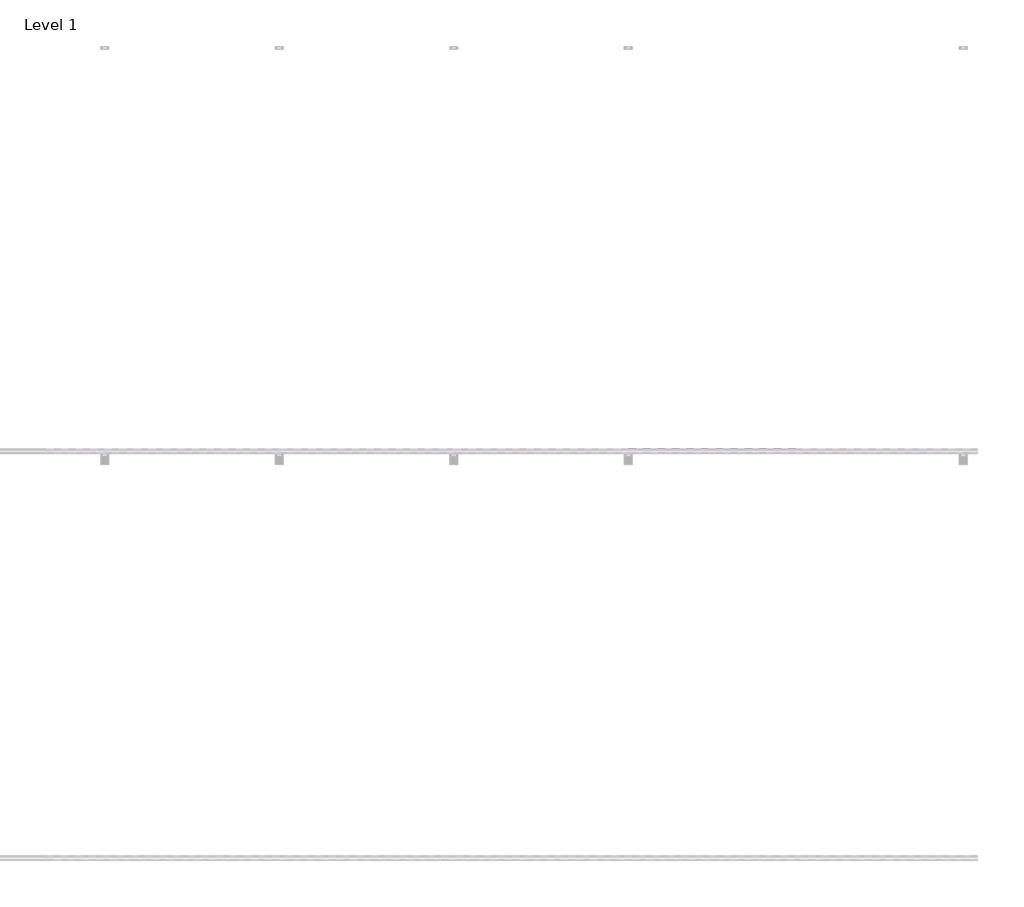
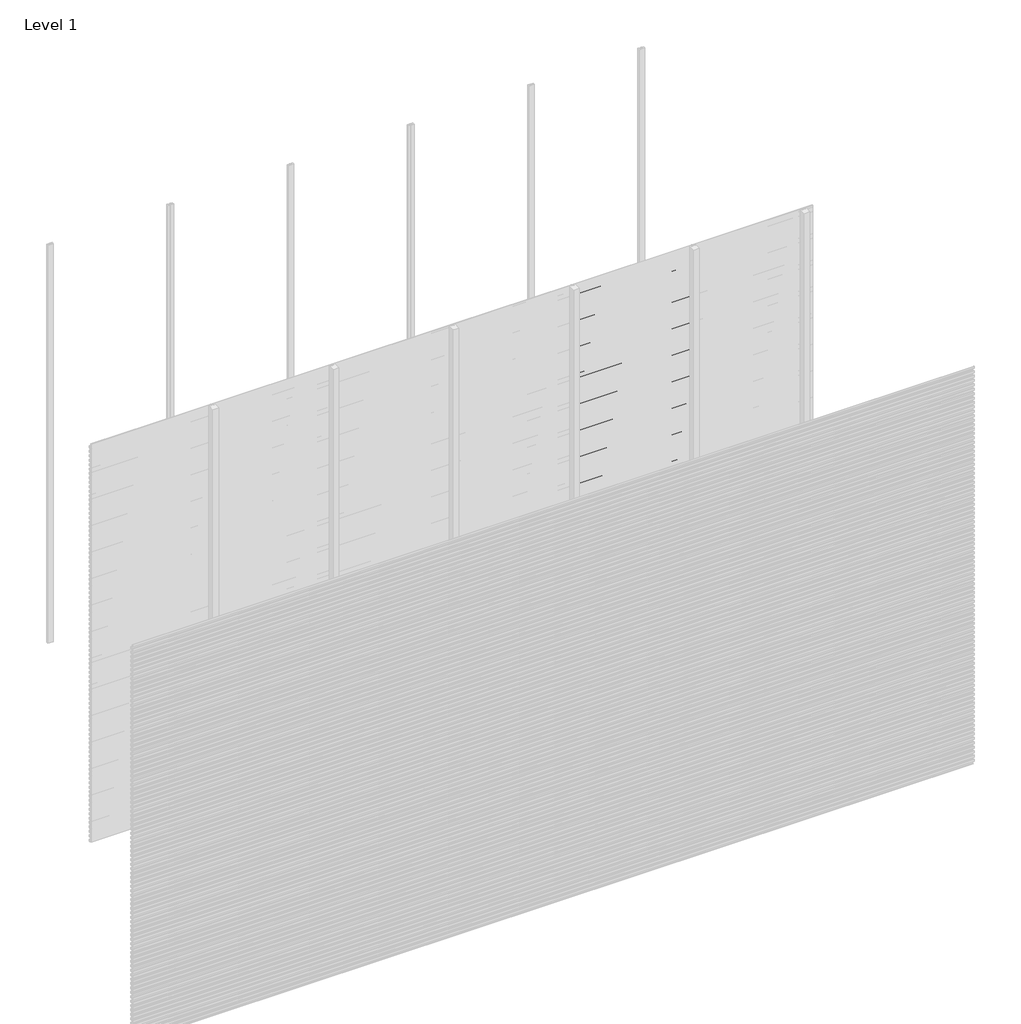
# One storey, part 48 of 96: 77 proxies.
"""IFC4 building model written with IfcOpenShell, lengths in millimetres."""

from ifc_helpers import new_model, si_unit, frame, origin, place, context, project, spatial, polyline, outline, extrude, element, save

model = new_model("IFC4")

# Units and contexts
model_context = context("Model", 3, world=origin())
ifc_project = project(units=[si_unit("LENGTHUNIT", "METRE", prefix="MILLI")], contexts=[model_context])

# Site, building, storey
site = spatial("IfcSite", under=ifc_project)
building = spatial("IfcBuilding", under=site)
storey = spatial("IfcBuildingStorey", under=building, Name="Level 1", Elevation=0.0)

# Proxies
placement = place(None, origin())
element("IfcBuildingElementProxy", 1, Name="Wall Sweeps", at=placement, inside=storey, context=model_context, shape_type="SweptSolid", body=[
    extrude(outline(polyline([(-29977.6, 873.8655033), (-29977.6, 859.5779188), (-29982.4114965, 856.8), (-29982.4114965, 858.0701706), (-29978.85, 860.1264016), (-29978.85, 873.1437382), (-29998.0, 884.2000799), (-29998.0, 899.1), (-29996.75, 899.1), (-29996.75, 884.9217609), (-29977.6, 873.8655033)])), frame((3428.5714286, 0.0, 0.0), z_axis=(1.0, 0.0, 0.0), x_axis=(0.0, 1.0, 0.0)), (0.0, 0.0, 1.0), 857.1428571),
])
element("IfcBuildingElementProxy", 2, Name="Wall Sweeps", at=placement, inside=storey, context=model_context, shape_type="SweptSolid", body=[
    extrude(outline(polyline([(-29977.6, 840.5655033), (-29977.6, 826.2779188), (-29982.4114965, 823.5), (-29982.4114965, 824.7701706), (-29978.85, 826.8264016), (-29978.85, 839.8437382), (-29998.0, 850.9000799), (-29998.0, 865.8), (-29996.75, 865.8), (-29996.75, 851.6217609), (-29977.6, 840.5655033)])), frame((3428.5714286, 0.0, 0.0), z_axis=(1.0, 0.0, 0.0), x_axis=(0.0, 1.0, 0.0)), (0.0, 0.0, 1.0), 857.1428571),
])
element("IfcBuildingElementProxy", 3, Name="Wall Sweeps", at=placement, inside=storey, context=model_context, shape_type="SweptSolid", body=[
    extrude(outline(polyline([(-29977.6, 807.2655033), (-29977.6, 792.9779188), (-29982.4114965, 790.2), (-29982.4114965, 791.4701706), (-29978.85, 793.5264016), (-29978.85, 806.5437382), (-29998.0, 817.6000799), (-29998.0, 832.5), (-29996.75, 832.5), (-29996.75, 818.3217609), (-29977.6, 807.2655033)])), frame((3428.5714286, 0.0, 0.0), z_axis=(1.0, 0.0, 0.0), x_axis=(0.0, 1.0, 0.0)), (0.0, 0.0, 1.0), 857.1428571),
])
element("IfcBuildingElementProxy", 4, Name="Wall Sweeps", at=placement, inside=storey, context=model_context, shape_type="SweptSolid", body=[
    extrude(outline(polyline([(-29977.6, 773.9655033), (-29977.6, 759.6779188), (-29982.4114965, 756.9), (-29982.4114965, 758.1701706), (-29978.85, 760.2264016), (-29978.85, 773.2437382), (-29998.0, 784.3000799), (-29998.0, 799.2), (-29996.75, 799.2), (-29996.75, 785.0217609), (-29977.6, 773.9655033)])), frame((3428.5714286, 0.0, 0.0), z_axis=(1.0, 0.0, 0.0), x_axis=(0.0, 1.0, 0.0)), (0.0, 0.0, 1.0), 857.1428571),
])
element("IfcBuildingElementProxy", 5, Name="Wall Sweeps", at=placement, inside=storey, context=model_context, shape_type="SweptSolid", body=[
    extrude(outline(polyline([(-29977.6, 740.6655033), (-29977.6, 726.3779188), (-29982.4114965, 723.6), (-29982.4114965, 724.8701706), (-29978.85, 726.9264016), (-29978.85, 739.9437382), (-29998.0, 751.0000799), (-29998.0, 765.9), (-29996.75, 765.9), (-29996.75, 751.7217609), (-29977.6, 740.6655033)])), frame((3428.5714286, 0.0, 0.0), z_axis=(1.0, 0.0, 0.0), x_axis=(0.0, 1.0, 0.0)), (0.0, 0.0, 1.0), 857.1428571),
])
element("IfcBuildingElementProxy", 6, Name="Wall Sweeps", at=placement, inside=storey, context=model_context, shape_type="SweptSolid", body=[
    extrude(outline(polyline([(-29977.6, 707.3655033), (-29977.6, 693.0779188), (-29982.4114965, 690.3), (-29982.4114965, 691.5701706), (-29978.85, 693.6264016), (-29978.85, 706.6437382), (-29998.0, 717.7000799), (-29998.0, 732.6), (-29996.75, 732.6), (-29996.75, 718.4217609), (-29977.6, 707.3655033)])), frame((3428.5714286, 0.0, 0.0), z_axis=(1.0, 0.0, 0.0), x_axis=(0.0, 1.0, 0.0)), (0.0, 0.0, 1.0), 857.1428571),
])
element("IfcBuildingElementProxy", 7, Name="Wall Sweeps", at=placement, inside=storey, context=model_context, shape_type="SweptSolid", body=[
    extrude(outline(polyline([(-29977.6, 674.0655033), (-29977.6, 659.7779188), (-29982.4114965, 657.0), (-29982.4114965, 658.2701706), (-29978.85, 660.3264016), (-29978.85, 673.3437382), (-29998.0, 684.4000799), (-29998.0, 699.3), (-29996.75, 699.3), (-29996.75, 685.1217609), (-29977.6, 674.0655033)])), frame((3428.5714286, 0.0, 0.0), z_axis=(1.0, 0.0, 0.0), x_axis=(0.0, 1.0, 0.0)), (0.0, 0.0, 1.0), 857.1428571),
])
element("IfcBuildingElementProxy", 8, Name="Wall Sweeps", at=placement, inside=storey, context=model_context, shape_type="SweptSolid", body=[
    extrude(outline(polyline([(-29977.6, 640.7655033), (-29977.6, 626.4779188), (-29982.4114965, 623.7), (-29982.4114965, 624.9701706), (-29978.85, 627.0264016), (-29978.85, 640.0437382), (-29998.0, 651.1000799), (-29998.0, 666.0), (-29996.75, 666.0), (-29996.75, 651.8217609), (-29977.6, 640.7655033)])), frame((3428.5714286, 0.0, 0.0), z_axis=(1.0, 0.0, 0.0), x_axis=(0.0, 1.0, 0.0)), (0.0, 0.0, 1.0), 857.1428571),
])
element("IfcBuildingElementProxy", 9, Name="Wall Sweeps", at=placement, inside=storey, context=model_context, shape_type="SweptSolid", body=[
    extrude(outline(polyline([(-29977.6, 607.4655033), (-29977.6, 593.1779188), (-29982.4114965, 590.4), (-29982.4114965, 591.6701706), (-29978.85, 593.7264016), (-29978.85, 606.7437382), (-29998.0, 617.8000799), (-29998.0, 632.7), (-29996.75, 632.7), (-29996.75, 618.5217609), (-29977.6, 607.4655033)])), frame((3428.5714286, 0.0, 0.0), z_axis=(1.0, 0.0, 0.0), x_axis=(0.0, 1.0, 0.0)), (0.0, 0.0, 1.0), 857.1428571),
])
element("IfcBuildingElementProxy", 10, Name="Wall Sweeps", at=placement, inside=storey, context=model_context, shape_type="SweptSolid", body=[
    extrude(outline(polyline([(-29977.6, 574.1655033), (-29977.6, 559.8779188), (-29982.4114965, 557.1), (-29982.4114965, 558.3701706), (-29978.85, 560.4264016), (-29978.85, 573.4437382), (-29998.0, 584.5000799), (-29998.0, 599.4), (-29996.75, 599.4), (-29996.75, 585.2217609), (-29977.6, 574.1655033)])), frame((3428.5714286, 0.0, 0.0), z_axis=(1.0, 0.0, 0.0), x_axis=(0.0, 1.0, 0.0)), (0.0, 0.0, 1.0), 857.1428571),
])
element("IfcBuildingElementProxy", 11, Name="Wall Sweeps", at=placement, inside=storey, context=model_context, shape_type="SweptSolid", body=[
    extrude(outline(polyline([(-29977.6, 540.8655033), (-29977.6, 526.5779188), (-29982.4114965, 523.8), (-29982.4114965, 525.0701706), (-29978.85, 527.1264016), (-29978.85, 540.1437382), (-29998.0, 551.2000799), (-29998.0, 566.1), (-29996.75, 566.1), (-29996.75, 551.9217609), (-29977.6, 540.8655033)])), frame((3428.5714286, 0.0, 0.0), z_axis=(1.0, 0.0, 0.0), x_axis=(0.0, 1.0, 0.0)), (0.0, 0.0, 1.0), 857.1428571),
])
element("IfcBuildingElementProxy", 12, Name="Wall Sweeps", at=placement, inside=storey, context=model_context, shape_type="SweptSolid", body=[
    extrude(outline(polyline([(-29977.6, 507.5655033), (-29977.6, 493.2779188), (-29982.4114965, 490.5), (-29982.4114965, 491.7701706), (-29978.85, 493.8264016), (-29978.85, 506.8437382), (-29998.0, 517.9000799), (-29998.0, 532.8), (-29996.75, 532.8), (-29996.75, 518.6217609), (-29977.6, 507.5655033)])), frame((3428.5714286, 0.0, 0.0), z_axis=(1.0, 0.0, 0.0), x_axis=(0.0, 1.0, 0.0)), (0.0, 0.0, 1.0), 857.1428571),
])
element("IfcBuildingElementProxy", 13, Name="Wall Sweeps", at=placement, inside=storey, context=model_context, shape_type="SweptSolid", body=[
    extrude(outline(polyline([(-29977.6, 474.2655033), (-29977.6, 459.9779188), (-29982.4114965, 457.2), (-29982.4114965, 458.4701706), (-29978.85, 460.5264016), (-29978.85, 473.5437382), (-29998.0, 484.6000799), (-29998.0, 499.5), (-29996.75, 499.5), (-29996.75, 485.3217609), (-29977.6, 474.2655033)])), frame((3428.5714286, 0.0, 0.0), z_axis=(1.0, 0.0, 0.0), x_axis=(0.0, 1.0, 0.0)), (0.0, 0.0, 1.0), 857.1428571),
])
element("IfcBuildingElementProxy", 14, Name="Wall Sweeps", at=placement, inside=storey, context=model_context, shape_type="SweptSolid", body=[
    extrude(outline(polyline([(-29977.6, 440.9655033), (-29977.6, 426.6779188), (-29982.4114965, 423.9), (-29982.4114965, 425.1701706), (-29978.85, 427.2264016), (-29978.85, 440.2437382), (-29998.0, 451.3000799), (-29998.0, 466.2), (-29996.75, 466.2), (-29996.75, 452.0217609), (-29977.6, 440.9655033)])), frame((3428.5714286, 0.0, 0.0), z_axis=(1.0, 0.0, 0.0), x_axis=(0.0, 1.0, 0.0)), (0.0, 0.0, 1.0), 857.1428571),
])
element("IfcBuildingElementProxy", 15, Name="Wall Sweeps", at=placement, inside=storey, context=model_context, shape_type="SweptSolid", body=[
    extrude(outline(polyline([(-29977.6, 407.6655033), (-29977.6, 393.3779188), (-29982.4114965, 390.6), (-29982.4114965, 391.8701706), (-29978.85, 393.9264016), (-29978.85, 406.9437382), (-29998.0, 418.0000799), (-29998.0, 432.9), (-29996.75, 432.9), (-29996.75, 418.7217609), (-29977.6, 407.6655033)])), frame((3428.5714286, 0.0, 0.0), z_axis=(1.0, 0.0, 0.0), x_axis=(0.0, 1.0, 0.0)), (0.0, 0.0, 1.0), 857.1428571),
])
element("IfcBuildingElementProxy", 16, Name="Wall Sweeps", at=placement, inside=storey, context=model_context, shape_type="SweptSolid", body=[
    extrude(outline(polyline([(-29977.6, 374.3655033), (-29977.6, 360.0779188), (-29982.4114965, 357.3), (-29982.4114965, 358.5701706), (-29978.85, 360.6264016), (-29978.85, 373.6437382), (-29998.0, 384.7000799), (-29998.0, 399.6), (-29996.75, 399.6), (-29996.75, 385.4217609), (-29977.6, 374.3655033)])), frame((3428.5714286, 0.0, 0.0), z_axis=(1.0, 0.0, 0.0), x_axis=(0.0, 1.0, 0.0)), (0.0, 0.0, 1.0), 857.1428571),
])
element("IfcBuildingElementProxy", 17, Name="Wall Sweeps", at=placement, inside=storey, context=model_context, shape_type="SweptSolid", body=[
    extrude(outline(polyline([(-29977.6, 341.0655033), (-29977.6, 326.7779188), (-29982.4114965, 324.0), (-29982.4114965, 325.2701706), (-29978.85, 327.3264016), (-29978.85, 340.3437382), (-29998.0, 351.4000799), (-29998.0, 366.3), (-29996.75, 366.3), (-29996.75, 352.1217609), (-29977.6, 341.0655033)])), frame((3428.5714286, 0.0, 0.0), z_axis=(1.0, 0.0, 0.0), x_axis=(0.0, 1.0, 0.0)), (0.0, 0.0, 1.0), 857.1428571),
])
element("IfcBuildingElementProxy", 18, Name="Wall Sweeps", at=placement, inside=storey, context=model_context, shape_type="SweptSolid", body=[
    extrude(outline(polyline([(-29977.6, 307.7655033), (-29977.6, 293.4779188), (-29982.4114965, 290.7), (-29982.4114965, 291.9701706), (-29978.85, 294.0264016), (-29978.85, 307.0437382), (-29998.0, 318.1000799), (-29998.0, 333.0), (-29996.75, 333.0), (-29996.75, 318.8217609), (-29977.6, 307.7655033)])), frame((3428.5714286, 0.0, 0.0), z_axis=(1.0, 0.0, 0.0), x_axis=(0.0, 1.0, 0.0)), (0.0, 0.0, 1.0), 857.1428571),
])
element("IfcBuildingElementProxy", 19, Name="Wall Sweeps", at=placement, inside=storey, context=model_context, shape_type="SweptSolid", body=[
    extrude(outline(polyline([(-29977.6, 274.4655033), (-29977.6, 260.1779188), (-29982.4114965, 257.4), (-29982.4114965, 258.6701706), (-29978.85, 260.7264016), (-29978.85, 273.7437382), (-29998.0, 284.8000799), (-29998.0, 299.7), (-29996.75, 299.7), (-29996.75, 285.5217609), (-29977.6, 274.4655033)])), frame((3428.5714286, 0.0, 0.0), z_axis=(1.0, 0.0, 0.0), x_axis=(0.0, 1.0, 0.0)), (0.0, 0.0, 1.0), 857.1428571),
])
element("IfcBuildingElementProxy", 20, Name="Wall Sweeps", at=placement, inside=storey, context=model_context, shape_type="SweptSolid", body=[
    extrude(outline(polyline([(-29977.6, 241.1655033), (-29977.6, 226.8779188), (-29982.4114965, 224.1), (-29982.4114965, 225.3701706), (-29978.85, 227.4264016), (-29978.85, 240.4437382), (-29998.0, 251.5000799), (-29998.0, 266.4), (-29996.75, 266.4), (-29996.75, 252.2217609), (-29977.6, 241.1655033)])), frame((3428.5714286, 0.0, 0.0), z_axis=(1.0, 0.0, 0.0), x_axis=(0.0, 1.0, 0.0)), (0.0, 0.0, 1.0), 857.1428571),
])
element("IfcBuildingElementProxy", 21, Name="Wall Sweeps", at=placement, inside=storey, context=model_context, shape_type="SweptSolid", body=[
    extrude(outline(polyline([(-29977.6, 207.8655033), (-29977.6, 193.5779188), (-29982.4114965, 190.8), (-29982.4114965, 192.0701706), (-29978.85, 194.1264016), (-29978.85, 207.1437382), (-29998.0, 218.2000799), (-29998.0, 233.1), (-29996.75, 233.1), (-29996.75, 218.9217609), (-29977.6, 207.8655033)])), frame((3428.5714286, 0.0, 0.0), z_axis=(1.0, 0.0, 0.0), x_axis=(0.0, 1.0, 0.0)), (0.0, 0.0, 1.0), 857.1428571),
])
element("IfcBuildingElementProxy", 22, Name="Wall Sweeps", at=placement, inside=storey, context=model_context, shape_type="SweptSolid", body=[
    extrude(outline(polyline([(-29977.6, 174.5655033), (-29977.6, 160.2779188), (-29982.4114965, 157.5), (-29982.4114965, 158.7701706), (-29978.85, 160.8264016), (-29978.85, 173.8437382), (-29998.0, 184.9000799), (-29998.0, 199.8), (-29996.75, 199.8), (-29996.75, 185.6217609), (-29977.6, 174.5655033)])), frame((3428.5714286, 0.0, 0.0), z_axis=(1.0, 0.0, 0.0), x_axis=(0.0, 1.0, 0.0)), (0.0, 0.0, 1.0), 857.1428571),
])
element("IfcBuildingElementProxy", 23, Name="Wall Sweeps", at=placement, inside=storey, context=model_context, shape_type="SweptSolid", body=[
    extrude(outline(polyline([(-29977.6, 141.2655033), (-29977.6, 126.9779188), (-29982.4114965, 124.2), (-29982.4114965, 125.4701706), (-29978.85, 127.5264016), (-29978.85, 140.5437382), (-29998.0, 151.6000799), (-29998.0, 166.5), (-29996.75, 166.5), (-29996.75, 152.3217609), (-29977.6, 141.2655033)])), frame((3428.5714286, 0.0, 0.0), z_axis=(1.0, 0.0, 0.0), x_axis=(0.0, 1.0, 0.0)), (0.0, 0.0, 1.0), 857.1428571),
])
element("IfcBuildingElementProxy", 24, Name="Wall Sweeps", at=placement, inside=storey, context=model_context, shape_type="SweptSolid", body=[
    extrude(outline(polyline([(-29977.6, 107.9655033), (-29977.6, 93.6779188), (-29982.4114965, 90.9), (-29982.4114965, 92.1701706), (-29978.85, 94.2264016), (-29978.85, 107.2437382), (-29998.0, 118.3000799), (-29998.0, 133.2), (-29996.75, 133.2), (-29996.75, 119.0217609), (-29977.6, 107.9655033)])), frame((3428.5714286, 0.0, 0.0), z_axis=(1.0, 0.0, 0.0), x_axis=(0.0, 1.0, 0.0)), (0.0, 0.0, 1.0), 857.1428571),
])
element("IfcBuildingElementProxy", 25, Name="Wall Sweeps", at=placement, inside=storey, context=model_context, shape_type="SweptSolid", body=[
    extrude(outline(polyline([(-29977.6, 74.6655033), (-29977.6, 60.3779188), (-29982.4114965, 57.6), (-29982.4114965, 58.8701706), (-29978.85, 60.9264016), (-29978.85, 73.9437382), (-29998.0, 85.0000799), (-29998.0, 99.9), (-29996.75, 99.9), (-29996.75, 85.7217609), (-29977.6, 74.6655033)])), frame((3428.5714286, 0.0, 0.0), z_axis=(1.0, 0.0, 0.0), x_axis=(0.0, 1.0, 0.0)), (0.0, 0.0, 1.0), 857.1428571),
])
element("IfcBuildingElementProxy", 26, Name="Wall Sweeps", at=placement, inside=storey, context=model_context, shape_type="SweptSolid", body=[
    extrude(outline(polyline([(-29977.6, 41.3655033), (-29977.6, 27.0779188), (-29982.4114965, 24.3), (-29982.4114965, 25.5701706), (-29978.85, 27.6264016), (-29978.85, 40.6437382), (-29998.0, 51.7000799), (-29998.0, 66.6), (-29996.75, 66.6), (-29996.75, 52.4217609), (-29977.6, 41.3655033)])), frame((3428.5714286, 0.0, 0.0), z_axis=(1.0, 0.0, 0.0), x_axis=(0.0, 1.0, 0.0)), (0.0, 0.0, 1.0), 857.1428571),
])
element("IfcBuildingElementProxy", 27, Name="Wall Sweeps", at=placement, inside=storey, context=model_context, shape_type="SweptSolid", body=[
    extrude(outline(polyline([(-29977.6, 8.0655033), (-29977.6, -6.2220812), (-29982.4114965, -9.0), (-29982.4114965, -7.7298294), (-29978.85, -5.6735984), (-29978.85, 7.3437382), (-29998.0, 18.4000799), (-29998.0, 33.3), (-29996.75, 33.3), (-29996.75, 19.1217609), (-29977.6, 8.0655033)])), frame((3428.5714286, 0.0, 0.0), z_axis=(1.0, 0.0, 0.0), x_axis=(0.0, 1.0, 0.0)), (0.0, 0.0, 1.0), 857.1428571),
])
element("IfcBuildingElementProxy", 28, Name="Wall Sweeps", at=placement, inside=storey, context=model_context, shape_type="SweptSolid", body=[
    extrude(outline(polyline([(-29977.6, 2971.7655033), (-29977.6, 2957.4779188), (-29982.4114965, 2954.7), (-29982.4114965, 2955.9701706), (-29978.85, 2958.0264016), (-29978.85, 2971.0437382), (-29998.0, 2982.1000799), (-29998.0, 2997.0), (-29996.75, 2997.0), (-29996.75, 2982.8217609), (-29977.6, 2971.7655033)])), frame((4285.7142857, 0.0, 0.0), z_axis=(1.0, 0.0, 0.0), x_axis=(0.0, 1.0, 0.0)), (0.0, 0.0, 1.0), 857.1428571),
])
element("IfcBuildingElementProxy", 29, Name="Wall Sweeps", at=placement, inside=storey, context=model_context, shape_type="SweptSolid", body=[
    extrude(outline(polyline([(-29977.6, 2938.4655033), (-29977.6, 2924.1779188), (-29982.4114965, 2921.4), (-29982.4114965, 2922.6701706), (-29978.85, 2924.7264016), (-29978.85, 2937.7437382), (-29998.0, 2948.8000799), (-29998.0, 2963.7), (-29996.75, 2963.7), (-29996.75, 2949.5217609), (-29977.6, 2938.4655033)])), frame((4285.7142857, 0.0, 0.0), z_axis=(1.0, 0.0, 0.0), x_axis=(0.0, 1.0, 0.0)), (0.0, 0.0, 1.0), 857.1428571),
])
element("IfcBuildingElementProxy", 30, Name="Wall Sweeps", at=placement, inside=storey, context=model_context, shape_type="SweptSolid", body=[
    extrude(outline(polyline([(-29977.6, 2905.1655033), (-29977.6, 2890.8779188), (-29982.4114965, 2888.1), (-29982.4114965, 2889.3701706), (-29978.85, 2891.4264016), (-29978.85, 2904.4437382), (-29998.0, 2915.5000799), (-29998.0, 2930.4), (-29996.75, 2930.4), (-29996.75, 2916.2217609), (-29977.6, 2905.1655033)])), frame((4285.7142857, 0.0, 0.0), z_axis=(1.0, 0.0, 0.0), x_axis=(0.0, 1.0, 0.0)), (0.0, 0.0, 1.0), 857.1428571),
])
element("IfcBuildingElementProxy", 31, Name="Wall Sweeps", at=placement, inside=storey, context=model_context, shape_type="SweptSolid", body=[
    extrude(outline(polyline([(-29977.6, 2871.8655033), (-29977.6, 2857.5779188), (-29982.4114965, 2854.8), (-29982.4114965, 2856.0701706), (-29978.85, 2858.1264016), (-29978.85, 2871.1437382), (-29998.0, 2882.2000799), (-29998.0, 2897.1), (-29996.75, 2897.1), (-29996.75, 2882.9217609), (-29977.6, 2871.8655033)])), frame((4285.7142857, 0.0, 0.0), z_axis=(1.0, 0.0, 0.0), x_axis=(0.0, 1.0, 0.0)), (0.0, 0.0, 1.0), 857.1428571),
])
element("IfcBuildingElementProxy", 32, Name="Wall Sweeps", at=placement, inside=storey, context=model_context, shape_type="SweptSolid", body=[
    extrude(outline(polyline([(-29977.6, 2838.5655033), (-29977.6, 2824.2779188), (-29982.4114965, 2821.5), (-29982.4114965, 2822.7701706), (-29978.85, 2824.8264016), (-29978.85, 2837.8437382), (-29998.0, 2848.9000799), (-29998.0, 2863.8), (-29996.75, 2863.8), (-29996.75, 2849.6217609), (-29977.6, 2838.5655033)])), frame((4285.7142857, 0.0, 0.0), z_axis=(1.0, 0.0, 0.0), x_axis=(0.0, 1.0, 0.0)), (0.0, 0.0, 1.0), 857.1428571),
])
element("IfcBuildingElementProxy", 33, Name="Wall Sweeps", at=placement, inside=storey, context=model_context, shape_type="SweptSolid", body=[
    extrude(outline(polyline([(-29977.6, 2805.2655033), (-29977.6, 2790.9779188), (-29982.4114965, 2788.2), (-29982.4114965, 2789.4701706), (-29978.85, 2791.5264016), (-29978.85, 2804.5437382), (-29998.0, 2815.6000799), (-29998.0, 2830.5), (-29996.75, 2830.5), (-29996.75, 2816.3217609), (-29977.6, 2805.2655033)])), frame((4285.7142857, 0.0, 0.0), z_axis=(1.0, 0.0, 0.0), x_axis=(0.0, 1.0, 0.0)), (0.0, 0.0, 1.0), 857.1428571),
])
element("IfcBuildingElementProxy", 34, Name="Wall Sweeps", at=placement, inside=storey, context=model_context, shape_type="SweptSolid", body=[
    extrude(outline(polyline([(-29977.6, 2771.9655033), (-29977.6, 2757.6779188), (-29982.4114965, 2754.9), (-29982.4114965, 2756.1701706), (-29978.85, 2758.2264016), (-29978.85, 2771.2437382), (-29998.0, 2782.3000799), (-29998.0, 2797.2), (-29996.75, 2797.2), (-29996.75, 2783.0217609), (-29977.6, 2771.9655033)])), frame((4285.7142857, 0.0, 0.0), z_axis=(1.0, 0.0, 0.0), x_axis=(0.0, 1.0, 0.0)), (0.0, 0.0, 1.0), 857.1428571),
])
element("IfcBuildingElementProxy", 35, Name="Wall Sweeps", at=placement, inside=storey, context=model_context, shape_type="SweptSolid", body=[
    extrude(outline(polyline([(-29977.6, 2738.6655033), (-29977.6, 2724.3779188), (-29982.4114965, 2721.6), (-29982.4114965, 2722.8701706), (-29978.85, 2724.9264016), (-29978.85, 2737.9437382), (-29998.0, 2749.0000799), (-29998.0, 2763.9), (-29996.75, 2763.9), (-29996.75, 2749.7217609), (-29977.6, 2738.6655033)])), frame((4285.7142857, 0.0, 0.0), z_axis=(1.0, 0.0, 0.0), x_axis=(0.0, 1.0, 0.0)), (0.0, 0.0, 1.0), 857.1428571),
])
element("IfcBuildingElementProxy", 36, Name="Wall Sweeps", at=placement, inside=storey, context=model_context, shape_type="SweptSolid", body=[
    extrude(outline(polyline([(-29977.6, 2705.3655033), (-29977.6, 2691.0779188), (-29982.4114965, 2688.3), (-29982.4114965, 2689.5701706), (-29978.85, 2691.6264016), (-29978.85, 2704.6437382), (-29998.0, 2715.7000799), (-29998.0, 2730.6), (-29996.75, 2730.6), (-29996.75, 2716.4217609), (-29977.6, 2705.3655033)])), frame((4285.7142857, 0.0, 0.0), z_axis=(1.0, 0.0, 0.0), x_axis=(0.0, 1.0, 0.0)), (0.0, 0.0, 1.0), 857.1428571),
])
element("IfcBuildingElementProxy", 37, Name="Wall Sweeps", at=placement, inside=storey, context=model_context, shape_type="SweptSolid", body=[
    extrude(outline(polyline([(-29977.6, 2672.0655033), (-29977.6, 2657.7779188), (-29982.4114965, 2655.0), (-29982.4114965, 2656.2701706), (-29978.85, 2658.3264016), (-29978.85, 2671.3437382), (-29998.0, 2682.4000799), (-29998.0, 2697.3), (-29996.75, 2697.3), (-29996.75, 2683.1217609), (-29977.6, 2672.0655033)])), frame((4285.7142857, 0.0, 0.0), z_axis=(1.0, 0.0, 0.0), x_axis=(0.0, 1.0, 0.0)), (0.0, 0.0, 1.0), 857.1428571),
])
element("IfcBuildingElementProxy", 38, Name="Wall Sweeps", at=placement, inside=storey, context=model_context, shape_type="SweptSolid", body=[
    extrude(outline(polyline([(-29977.6, 2638.7655033), (-29977.6, 2624.4779188), (-29982.4114965, 2621.7), (-29982.4114965, 2622.9701706), (-29978.85, 2625.0264016), (-29978.85, 2638.0437382), (-29998.0, 2649.1000799), (-29998.0, 2664.0), (-29996.75, 2664.0), (-29996.75, 2649.8217609), (-29977.6, 2638.7655033)])), frame((4285.7142857, 0.0, 0.0), z_axis=(1.0, 0.0, 0.0), x_axis=(0.0, 1.0, 0.0)), (0.0, 0.0, 1.0), 857.1428571),
])
element("IfcBuildingElementProxy", 39, Name="Wall Sweeps", at=placement, inside=storey, context=model_context, shape_type="SweptSolid", body=[
    extrude(outline(polyline([(-29977.6, 2605.4655033), (-29977.6, 2591.1779188), (-29982.4114965, 2588.4), (-29982.4114965, 2589.6701706), (-29978.85, 2591.7264016), (-29978.85, 2604.7437382), (-29998.0, 2615.8000799), (-29998.0, 2630.7), (-29996.75, 2630.7), (-29996.75, 2616.5217609), (-29977.6, 2605.4655033)])), frame((4285.7142857, 0.0, 0.0), z_axis=(1.0, 0.0, 0.0), x_axis=(0.0, 1.0, 0.0)), (0.0, 0.0, 1.0), 857.1428571),
])
element("IfcBuildingElementProxy", 40, Name="Wall Sweeps", at=placement, inside=storey, context=model_context, shape_type="SweptSolid", body=[
    extrude(outline(polyline([(-29977.6, 2572.1655033), (-29977.6, 2557.8779188), (-29982.4114965, 2555.1), (-29982.4114965, 2556.3701706), (-29978.85, 2558.4264016), (-29978.85, 2571.4437382), (-29998.0, 2582.5000799), (-29998.0, 2597.4), (-29996.75, 2597.4), (-29996.75, 2583.2217609), (-29977.6, 2572.1655033)])), frame((4285.7142857, 0.0, 0.0), z_axis=(1.0, 0.0, 0.0), x_axis=(0.0, 1.0, 0.0)), (0.0, 0.0, 1.0), 857.1428571),
])
element("IfcBuildingElementProxy", 41, Name="Wall Sweeps", at=placement, inside=storey, context=model_context, shape_type="SweptSolid", body=[
    extrude(outline(polyline([(-29977.6, 2538.8655033), (-29977.6, 2524.5779188), (-29982.4114965, 2521.8), (-29982.4114965, 2523.0701706), (-29978.85, 2525.1264016), (-29978.85, 2538.1437382), (-29998.0, 2549.2000799), (-29998.0, 2564.1), (-29996.75, 2564.1), (-29996.75, 2549.9217609), (-29977.6, 2538.8655033)])), frame((4285.7142857, 0.0, 0.0), z_axis=(1.0, 0.0, 0.0), x_axis=(0.0, 1.0, 0.0)), (0.0, 0.0, 1.0), 857.1428571),
])
element("IfcBuildingElementProxy", 42, Name="Wall Sweeps", at=placement, inside=storey, context=model_context, shape_type="SweptSolid", body=[
    extrude(outline(polyline([(-29977.6, 2505.5655033), (-29977.6, 2491.2779188), (-29982.4114965, 2488.5), (-29982.4114965, 2489.7701706), (-29978.85, 2491.8264016), (-29978.85, 2504.8437382), (-29998.0, 2515.9000799), (-29998.0, 2530.8), (-29996.75, 2530.8), (-29996.75, 2516.6217609), (-29977.6, 2505.5655033)])), frame((4285.7142857, 0.0, 0.0), z_axis=(1.0, 0.0, 0.0), x_axis=(0.0, 1.0, 0.0)), (0.0, 0.0, 1.0), 857.1428571),
])
element("IfcBuildingElementProxy", 43, Name="Wall Sweeps", at=placement, inside=storey, context=model_context, shape_type="SweptSolid", body=[
    extrude(outline(polyline([(-29977.6, 2472.2655033), (-29977.6, 2457.9779188), (-29982.4114965, 2455.2), (-29982.4114965, 2456.4701706), (-29978.85, 2458.5264016), (-29978.85, 2471.5437382), (-29998.0, 2482.6000799), (-29998.0, 2497.5), (-29996.75, 2497.5), (-29996.75, 2483.3217609), (-29977.6, 2472.2655033)])), frame((4285.7142857, 0.0, 0.0), z_axis=(1.0, 0.0, 0.0), x_axis=(0.0, 1.0, 0.0)), (0.0, 0.0, 1.0), 857.1428571),
])
element("IfcBuildingElementProxy", 44, Name="Wall Sweeps", at=placement, inside=storey, context=model_context, shape_type="SweptSolid", body=[
    extrude(outline(polyline([(-29977.6, 2438.9655033), (-29977.6, 2424.6779188), (-29982.4114965, 2421.9), (-29982.4114965, 2423.1701706), (-29978.85, 2425.2264016), (-29978.85, 2438.2437382), (-29998.0, 2449.3000799), (-29998.0, 2464.2), (-29996.75, 2464.2), (-29996.75, 2450.0217609), (-29977.6, 2438.9655033)])), frame((4285.7142857, 0.0, 0.0), z_axis=(1.0, 0.0, 0.0), x_axis=(0.0, 1.0, 0.0)), (0.0, 0.0, 1.0), 857.1428571),
])
element("IfcBuildingElementProxy", 45, Name="Wall Sweeps", at=placement, inside=storey, context=model_context, shape_type="SweptSolid", body=[
    extrude(outline(polyline([(-29977.6, 2405.6655033), (-29977.6, 2391.3779188), (-29982.4114965, 2388.6), (-29982.4114965, 2389.8701706), (-29978.85, 2391.9264016), (-29978.85, 2404.9437382), (-29998.0, 2416.0000799), (-29998.0, 2430.9), (-29996.75, 2430.9), (-29996.75, 2416.7217609), (-29977.6, 2405.6655033)])), frame((4285.7142857, 0.0, 0.0), z_axis=(1.0, 0.0, 0.0), x_axis=(0.0, 1.0, 0.0)), (0.0, 0.0, 1.0), 857.1428571),
])
element("IfcBuildingElementProxy", 46, Name="Wall Sweeps", at=placement, inside=storey, context=model_context, shape_type="SweptSolid", body=[
    extrude(outline(polyline([(-29977.6, 2372.3655033), (-29977.6, 2358.0779188), (-29982.4114965, 2355.3), (-29982.4114965, 2356.5701706), (-29978.85, 2358.6264016), (-29978.85, 2371.6437382), (-29998.0, 2382.7000799), (-29998.0, 2397.6), (-29996.75, 2397.6), (-29996.75, 2383.4217609), (-29977.6, 2372.3655033)])), frame((4285.7142857, 0.0, 0.0), z_axis=(1.0, 0.0, 0.0), x_axis=(0.0, 1.0, 0.0)), (0.0, 0.0, 1.0), 857.1428571),
])
element("IfcBuildingElementProxy", 47, Name="Wall Sweeps", at=placement, inside=storey, context=model_context, shape_type="SweptSolid", body=[
    extrude(outline(polyline([(-29977.6, 2339.0655033), (-29977.6, 2324.7779188), (-29982.4114965, 2322.0), (-29982.4114965, 2323.2701706), (-29978.85, 2325.3264016), (-29978.85, 2338.3437382), (-29998.0, 2349.4000799), (-29998.0, 2364.3), (-29996.75, 2364.3), (-29996.75, 2350.1217609), (-29977.6, 2339.0655033)])), frame((4285.7142857, 0.0, 0.0), z_axis=(1.0, 0.0, 0.0), x_axis=(0.0, 1.0, 0.0)), (0.0, 0.0, 1.0), 857.1428571),
])
element("IfcBuildingElementProxy", 48, Name="Wall Sweeps", at=placement, inside=storey, context=model_context, shape_type="SweptSolid", body=[
    extrude(outline(polyline([(-29977.6, 2305.7655033), (-29977.6, 2291.4779188), (-29982.4114965, 2288.7), (-29982.4114965, 2289.9701706), (-29978.85, 2292.0264016), (-29978.85, 2305.0437382), (-29998.0, 2316.1000799), (-29998.0, 2331.0), (-29996.75, 2331.0), (-29996.75, 2316.8217609), (-29977.6, 2305.7655033)])), frame((4285.7142857, 0.0, 0.0), z_axis=(1.0, 0.0, 0.0), x_axis=(0.0, 1.0, 0.0)), (0.0, 0.0, 1.0), 857.1428571),
])
element("IfcBuildingElementProxy", 49, Name="Wall Sweeps", at=placement, inside=storey, context=model_context, shape_type="SweptSolid", body=[
    extrude(outline(polyline([(-29977.6, 2272.4655033), (-29977.6, 2258.1779188), (-29982.4114965, 2255.4), (-29982.4114965, 2256.6701706), (-29978.85, 2258.7264016), (-29978.85, 2271.7437382), (-29998.0, 2282.8000799), (-29998.0, 2297.7), (-29996.75, 2297.7), (-29996.75, 2283.5217609), (-29977.6, 2272.4655033)])), frame((4285.7142857, 0.0, 0.0), z_axis=(1.0, 0.0, 0.0), x_axis=(0.0, 1.0, 0.0)), (0.0, 0.0, 1.0), 857.1428571),
])
element("IfcBuildingElementProxy", 50, Name="Wall Sweeps", at=placement, inside=storey, context=model_context, shape_type="SweptSolid", body=[
    extrude(outline(polyline([(-29977.6, 2239.1655033), (-29977.6, 2224.8779188), (-29982.4114965, 2222.1), (-29982.4114965, 2223.3701706), (-29978.85, 2225.4264016), (-29978.85, 2238.4437382), (-29998.0, 2249.5000799), (-29998.0, 2264.4), (-29996.75, 2264.4), (-29996.75, 2250.2217609), (-29977.6, 2239.1655033)])), frame((4285.7142857, 0.0, 0.0), z_axis=(1.0, 0.0, 0.0), x_axis=(0.0, 1.0, 0.0)), (0.0, 0.0, 1.0), 857.1428571),
])
element("IfcBuildingElementProxy", 51, Name="Wall Sweeps", at=placement, inside=storey, context=model_context, shape_type="SweptSolid", body=[
    extrude(outline(polyline([(-29977.6, 2205.8655033), (-29977.6, 2191.5779188), (-29982.4114965, 2188.8), (-29982.4114965, 2190.0701706), (-29978.85, 2192.1264016), (-29978.85, 2205.1437382), (-29998.0, 2216.2000799), (-29998.0, 2231.1), (-29996.75, 2231.1), (-29996.75, 2216.9217609), (-29977.6, 2205.8655033)])), frame((4285.7142857, 0.0, 0.0), z_axis=(1.0, 0.0, 0.0), x_axis=(0.0, 1.0, 0.0)), (0.0, 0.0, 1.0), 857.1428571),
])
element("IfcBuildingElementProxy", 52, Name="Wall Sweeps", at=placement, inside=storey, context=model_context, shape_type="SweptSolid", body=[
    extrude(outline(polyline([(-29977.6, 2172.5655033), (-29977.6, 2158.2779188), (-29982.4114965, 2155.5), (-29982.4114965, 2156.7701706), (-29978.85, 2158.8264016), (-29978.85, 2171.8437382), (-29998.0, 2182.9000799), (-29998.0, 2197.8), (-29996.75, 2197.8), (-29996.75, 2183.6217609), (-29977.6, 2172.5655033)])), frame((4285.7142857, 0.0, 0.0), z_axis=(1.0, 0.0, 0.0), x_axis=(0.0, 1.0, 0.0)), (0.0, 0.0, 1.0), 857.1428571),
])
element("IfcBuildingElementProxy", 53, Name="Wall Sweeps", at=placement, inside=storey, context=model_context, shape_type="SweptSolid", body=[
    extrude(outline(polyline([(-29977.6, 2139.2655033), (-29977.6, 2124.9779188), (-29982.4114965, 2122.2), (-29982.4114965, 2123.4701706), (-29978.85, 2125.5264016), (-29978.85, 2138.5437382), (-29998.0, 2149.6000799), (-29998.0, 2164.5), (-29996.75, 2164.5), (-29996.75, 2150.3217609), (-29977.6, 2139.2655033)])), frame((4285.7142857, 0.0, 0.0), z_axis=(1.0, 0.0, 0.0), x_axis=(0.0, 1.0, 0.0)), (0.0, 0.0, 1.0), 857.1428571),
])
element("IfcBuildingElementProxy", 54, Name="Wall Sweeps", at=placement, inside=storey, context=model_context, shape_type="SweptSolid", body=[
    extrude(outline(polyline([(-29977.6, 2105.9655033), (-29977.6, 2091.6779188), (-29982.4114965, 2088.9), (-29982.4114965, 2090.1701706), (-29978.85, 2092.2264016), (-29978.85, 2105.2437382), (-29998.0, 2116.3000799), (-29998.0, 2131.2), (-29996.75, 2131.2), (-29996.75, 2117.0217609), (-29977.6, 2105.9655033)])), frame((4285.7142857, 0.0, 0.0), z_axis=(1.0, 0.0, 0.0), x_axis=(0.0, 1.0, 0.0)), (0.0, 0.0, 1.0), 857.1428571),
])
element("IfcBuildingElementProxy", 55, Name="Wall Sweeps", at=placement, inside=storey, context=model_context, shape_type="SweptSolid", body=[
    extrude(outline(polyline([(-29977.6, 2072.6655033), (-29977.6, 2058.3779188), (-29982.4114965, 2055.6), (-29982.4114965, 2056.8701706), (-29978.85, 2058.9264016), (-29978.85, 2071.9437382), (-29998.0, 2083.0000799), (-29998.0, 2097.9), (-29996.75, 2097.9), (-29996.75, 2083.7217609), (-29977.6, 2072.6655033)])), frame((4285.7142857, 0.0, 0.0), z_axis=(1.0, 0.0, 0.0), x_axis=(0.0, 1.0, 0.0)), (0.0, 0.0, 1.0), 857.1428571),
])
element("IfcBuildingElementProxy", 56, Name="Wall Sweeps", at=placement, inside=storey, context=model_context, shape_type="SweptSolid", body=[
    extrude(outline(polyline([(-29977.6, 2039.3655033), (-29977.6, 2025.0779188), (-29982.4114965, 2022.3), (-29982.4114965, 2023.5701706), (-29978.85, 2025.6264016), (-29978.85, 2038.6437382), (-29998.0, 2049.7000799), (-29998.0, 2064.6), (-29996.75, 2064.6), (-29996.75, 2050.4217609), (-29977.6, 2039.3655033)])), frame((4285.7142857, 0.0, 0.0), z_axis=(1.0, 0.0, 0.0), x_axis=(0.0, 1.0, 0.0)), (0.0, 0.0, 1.0), 857.1428571),
])
element("IfcBuildingElementProxy", 57, Name="Wall Sweeps", at=placement, inside=storey, context=model_context, shape_type="SweptSolid", body=[
    extrude(outline(polyline([(-29977.6, 2006.0655033), (-29977.6, 1991.7779188), (-29982.4114965, 1989.0), (-29982.4114965, 1990.2701706), (-29978.85, 1992.3264016), (-29978.85, 2005.3437382), (-29998.0, 2016.4000799), (-29998.0, 2031.3), (-29996.75, 2031.3), (-29996.75, 2017.1217609), (-29977.6, 2006.0655033)])), frame((4285.7142857, 0.0, 0.0), z_axis=(1.0, 0.0, 0.0), x_axis=(0.0, 1.0, 0.0)), (0.0, 0.0, 1.0), 857.1428571),
])
element("IfcBuildingElementProxy", 58, Name="Wall Sweeps", at=placement, inside=storey, context=model_context, shape_type="SweptSolid", body=[
    extrude(outline(polyline([(-29977.6, 1972.7655033), (-29977.6, 1958.4779188), (-29982.4114965, 1955.7), (-29982.4114965, 1956.9701706), (-29978.85, 1959.0264016), (-29978.85, 1972.0437382), (-29998.0, 1983.1000799), (-29998.0, 1998.0), (-29996.75, 1998.0), (-29996.75, 1983.8217609), (-29977.6, 1972.7655033)])), frame((4285.7142857, 0.0, 0.0), z_axis=(1.0, 0.0, 0.0), x_axis=(0.0, 1.0, 0.0)), (0.0, 0.0, 1.0), 857.1428571),
])
element("IfcBuildingElementProxy", 59, Name="Wall Sweeps", at=placement, inside=storey, context=model_context, shape_type="SweptSolid", body=[
    extrude(outline(polyline([(-29977.6, 1939.4655033), (-29977.6, 1925.1779188), (-29982.4114965, 1922.4), (-29982.4114965, 1923.6701706), (-29978.85, 1925.7264016), (-29978.85, 1938.7437382), (-29998.0, 1949.8000799), (-29998.0, 1964.7), (-29996.75, 1964.7), (-29996.75, 1950.5217609), (-29977.6, 1939.4655033)])), frame((4285.7142857, 0.0, 0.0), z_axis=(1.0, 0.0, 0.0), x_axis=(0.0, 1.0, 0.0)), (0.0, 0.0, 1.0), 857.1428571),
])
element("IfcBuildingElementProxy", 60, Name="Wall Sweeps", at=placement, inside=storey, context=model_context, shape_type="SweptSolid", body=[
    extrude(outline(polyline([(-29977.6, 1906.1655033), (-29977.6, 1891.8779188), (-29982.4114965, 1889.1), (-29982.4114965, 1890.3701706), (-29978.85, 1892.4264016), (-29978.85, 1905.4437382), (-29998.0, 1916.5000799), (-29998.0, 1931.4), (-29996.75, 1931.4), (-29996.75, 1917.2217609), (-29977.6, 1906.1655033)])), frame((4285.7142857, 0.0, 0.0), z_axis=(1.0, 0.0, 0.0), x_axis=(0.0, 1.0, 0.0)), (0.0, 0.0, 1.0), 857.1428571),
])
element("IfcBuildingElementProxy", 61, Name="Wall Sweeps", at=placement, inside=storey, context=model_context, shape_type="SweptSolid", body=[
    extrude(outline(polyline([(-29977.6, 1872.8655033), (-29977.6, 1858.5779188), (-29982.4114965, 1855.8), (-29982.4114965, 1857.0701706), (-29978.85, 1859.1264016), (-29978.85, 1872.1437382), (-29998.0, 1883.2000799), (-29998.0, 1898.1), (-29996.75, 1898.1), (-29996.75, 1883.9217609), (-29977.6, 1872.8655033)])), frame((4285.7142857, 0.0, 0.0), z_axis=(1.0, 0.0, 0.0), x_axis=(0.0, 1.0, 0.0)), (0.0, 0.0, 1.0), 857.1428571),
])
element("IfcBuildingElementProxy", 62, Name="Wall Sweeps", at=placement, inside=storey, context=model_context, shape_type="SweptSolid", body=[
    extrude(outline(polyline([(-29977.6, 1839.5655033), (-29977.6, 1825.2779188), (-29982.4114965, 1822.5), (-29982.4114965, 1823.7701706), (-29978.85, 1825.8264016), (-29978.85, 1838.8437382), (-29998.0, 1849.9000799), (-29998.0, 1864.8), (-29996.75, 1864.8), (-29996.75, 1850.6217609), (-29977.6, 1839.5655033)])), frame((4285.7142857, 0.0, 0.0), z_axis=(1.0, 0.0, 0.0), x_axis=(0.0, 1.0, 0.0)), (0.0, 0.0, 1.0), 857.1428571),
])
element("IfcBuildingElementProxy", 63, Name="Wall Sweeps", at=placement, inside=storey, context=model_context, shape_type="SweptSolid", body=[
    extrude(outline(polyline([(-29977.6, 1806.2655033), (-29977.6, 1791.9779188), (-29982.4114965, 1789.2), (-29982.4114965, 1790.4701706), (-29978.85, 1792.5264016), (-29978.85, 1805.5437382), (-29998.0, 1816.6000799), (-29998.0, 1831.5), (-29996.75, 1831.5), (-29996.75, 1817.3217609), (-29977.6, 1806.2655033)])), frame((4285.7142857, 0.0, 0.0), z_axis=(1.0, 0.0, 0.0), x_axis=(0.0, 1.0, 0.0)), (0.0, 0.0, 1.0), 857.1428571),
])
element("IfcBuildingElementProxy", 64, Name="Wall Sweeps", at=placement, inside=storey, context=model_context, shape_type="SweptSolid", body=[
    extrude(outline(polyline([(-29977.6, 1772.9655033), (-29977.6, 1758.6779188), (-29982.4114965, 1755.9), (-29982.4114965, 1757.1701706), (-29978.85, 1759.2264016), (-29978.85, 1772.2437382), (-29998.0, 1783.3000799), (-29998.0, 1798.2), (-29996.75, 1798.2), (-29996.75, 1784.0217609), (-29977.6, 1772.9655033)])), frame((4285.7142857, 0.0, 0.0), z_axis=(1.0, 0.0, 0.0), x_axis=(0.0, 1.0, 0.0)), (0.0, 0.0, 1.0), 857.1428571),
])
element("IfcBuildingElementProxy", 65, Name="Wall Sweeps", at=placement, inside=storey, context=model_context, shape_type="SweptSolid", body=[
    extrude(outline(polyline([(-29977.6, 1739.6655033), (-29977.6, 1725.3779188), (-29982.4114965, 1722.6), (-29982.4114965, 1723.8701706), (-29978.85, 1725.9264016), (-29978.85, 1738.9437382), (-29998.0, 1750.0000799), (-29998.0, 1764.9), (-29996.75, 1764.9), (-29996.75, 1750.7217609), (-29977.6, 1739.6655033)])), frame((4285.7142857, 0.0, 0.0), z_axis=(1.0, 0.0, 0.0), x_axis=(0.0, 1.0, 0.0)), (0.0, 0.0, 1.0), 857.1428571),
])
element("IfcBuildingElementProxy", 66, Name="Wall Sweeps", at=placement, inside=storey, context=model_context, shape_type="SweptSolid", body=[
    extrude(outline(polyline([(-29977.6, 1706.3655033), (-29977.6, 1692.0779188), (-29982.4114965, 1689.3), (-29982.4114965, 1690.5701706), (-29978.85, 1692.6264016), (-29978.85, 1705.6437382), (-29998.0, 1716.7000799), (-29998.0, 1731.6), (-29996.75, 1731.6), (-29996.75, 1717.4217609), (-29977.6, 1706.3655033)])), frame((4285.7142857, 0.0, 0.0), z_axis=(1.0, 0.0, 0.0), x_axis=(0.0, 1.0, 0.0)), (0.0, 0.0, 1.0), 857.1428571),
])
element("IfcBuildingElementProxy", 67, Name="Wall Sweeps", at=placement, inside=storey, context=model_context, shape_type="SweptSolid", body=[
    extrude(outline(polyline([(-29977.6, 1673.0655033), (-29977.6, 1658.7779188), (-29982.4114965, 1656.0), (-29982.4114965, 1657.2701706), (-29978.85, 1659.3264016), (-29978.85, 1672.3437382), (-29998.0, 1683.4000799), (-29998.0, 1698.3), (-29996.75, 1698.3), (-29996.75, 1684.1217609), (-29977.6, 1673.0655033)])), frame((4285.7142857, 0.0, 0.0), z_axis=(1.0, 0.0, 0.0), x_axis=(0.0, 1.0, 0.0)), (0.0, 0.0, 1.0), 857.1428571),
])
element("IfcBuildingElementProxy", 68, Name="Wall Sweeps", at=placement, inside=storey, context=model_context, shape_type="SweptSolid", body=[
    extrude(outline(polyline([(-29977.6, 1639.7655033), (-29977.6, 1625.4779188), (-29982.4114965, 1622.7), (-29982.4114965, 1623.9701706), (-29978.85, 1626.0264016), (-29978.85, 1639.0437382), (-29998.0, 1650.1000799), (-29998.0, 1665.0), (-29996.75, 1665.0), (-29996.75, 1650.8217609), (-29977.6, 1639.7655033)])), frame((4285.7142857, 0.0, 0.0), z_axis=(1.0, 0.0, 0.0), x_axis=(0.0, 1.0, 0.0)), (0.0, 0.0, 1.0), 857.1428571),
])
element("IfcBuildingElementProxy", 69, Name="Wall Sweeps", at=placement, inside=storey, context=model_context, shape_type="SweptSolid", body=[
    extrude(outline(polyline([(-29977.6, 1606.4655033), (-29977.6, 1592.1779188), (-29982.4114965, 1589.4), (-29982.4114965, 1590.6701706), (-29978.85, 1592.7264016), (-29978.85, 1605.7437382), (-29998.0, 1616.8000799), (-29998.0, 1631.7), (-29996.75, 1631.7), (-29996.75, 1617.5217609), (-29977.6, 1606.4655033)])), frame((4285.7142857, 0.0, 0.0), z_axis=(1.0, 0.0, 0.0), x_axis=(0.0, 1.0, 0.0)), (0.0, 0.0, 1.0), 857.1428571),
])
element("IfcBuildingElementProxy", 70, Name="Wall Sweeps", at=placement, inside=storey, context=model_context, shape_type="SweptSolid", body=[
    extrude(outline(polyline([(-29977.6, 1573.1655033), (-29977.6, 1558.8779188), (-29982.4114965, 1556.1), (-29982.4114965, 1557.3701706), (-29978.85, 1559.4264016), (-29978.85, 1572.4437382), (-29998.0, 1583.5000799), (-29998.0, 1598.4), (-29996.75, 1598.4), (-29996.75, 1584.2217609), (-29977.6, 1573.1655033)])), frame((4285.7142857, 0.0, 0.0), z_axis=(1.0, 0.0, 0.0), x_axis=(0.0, 1.0, 0.0)), (0.0, 0.0, 1.0), 857.1428571),
])
element("IfcBuildingElementProxy", 71, Name="Wall Sweeps", at=placement, inside=storey, context=model_context, shape_type="SweptSolid", body=[
    extrude(outline(polyline([(-29977.6, 1539.8655033), (-29977.6, 1525.5779188), (-29982.4114965, 1522.8), (-29982.4114965, 1524.0701706), (-29978.85, 1526.1264016), (-29978.85, 1539.1437382), (-29998.0, 1550.2000799), (-29998.0, 1565.1), (-29996.75, 1565.1), (-29996.75, 1550.9217609), (-29977.6, 1539.8655033)])), frame((4285.7142857, 0.0, 0.0), z_axis=(1.0, 0.0, 0.0), x_axis=(0.0, 1.0, 0.0)), (0.0, 0.0, 1.0), 857.1428571),
])
element("IfcBuildingElementProxy", 72, Name="Wall Sweeps", at=placement, inside=storey, context=model_context, shape_type="SweptSolid", body=[
    extrude(outline(polyline([(-29977.6, 1506.5655033), (-29977.6, 1492.2779188), (-29982.4114965, 1489.5), (-29982.4114965, 1490.7701706), (-29978.85, 1492.8264016), (-29978.85, 1505.8437382), (-29998.0, 1516.9000799), (-29998.0, 1531.8), (-29996.75, 1531.8), (-29996.75, 1517.6217609), (-29977.6, 1506.5655033)])), frame((4285.7142857, 0.0, 0.0), z_axis=(1.0, 0.0, 0.0), x_axis=(0.0, 1.0, 0.0)), (0.0, 0.0, 1.0), 857.1428571),
])
element("IfcBuildingElementProxy", 73, Name="Wall Sweeps", at=placement, inside=storey, context=model_context, shape_type="SweptSolid", body=[
    extrude(outline(polyline([(-29977.6, 1473.2655033), (-29977.6, 1458.9779188), (-29982.4114965, 1456.2), (-29982.4114965, 1457.4701706), (-29978.85, 1459.5264016), (-29978.85, 1472.5437382), (-29998.0, 1483.6000799), (-29998.0, 1498.5), (-29996.75, 1498.5), (-29996.75, 1484.3217609), (-29977.6, 1473.2655033)])), frame((4285.7142857, 0.0, 0.0), z_axis=(1.0, 0.0, 0.0), x_axis=(0.0, 1.0, 0.0)), (0.0, 0.0, 1.0), 857.1428571),
])
element("IfcBuildingElementProxy", 74, Name="Wall Sweeps", at=placement, inside=storey, context=model_context, shape_type="SweptSolid", body=[
    extrude(outline(polyline([(-29977.6, 1439.9655033), (-29977.6, 1425.6779188), (-29982.4114965, 1422.9), (-29982.4114965, 1424.1701706), (-29978.85, 1426.2264016), (-29978.85, 1439.2437382), (-29998.0, 1450.3000799), (-29998.0, 1465.2), (-29996.75, 1465.2), (-29996.75, 1451.0217609), (-29977.6, 1439.9655033)])), frame((4285.7142857, 0.0, 0.0), z_axis=(1.0, 0.0, 0.0), x_axis=(0.0, 1.0, 0.0)), (0.0, 0.0, 1.0), 857.1428571),
])
element("IfcBuildingElementProxy", 75, Name="Wall Sweeps", at=placement, inside=storey, context=model_context, shape_type="SweptSolid", body=[
    extrude(outline(polyline([(-29977.6, 1406.6655033), (-29977.6, 1392.3779188), (-29982.4114965, 1389.6), (-29982.4114965, 1390.8701706), (-29978.85, 1392.9264016), (-29978.85, 1405.9437382), (-29998.0, 1417.0000799), (-29998.0, 1431.9), (-29996.75, 1431.9), (-29996.75, 1417.7217609), (-29977.6, 1406.6655033)])), frame((4285.7142857, 0.0, 0.0), z_axis=(1.0, 0.0, 0.0), x_axis=(0.0, 1.0, 0.0)), (0.0, 0.0, 1.0), 857.1428571),
])
element("IfcBuildingElementProxy", 76, Name="Wall Sweeps", at=placement, inside=storey, context=model_context, shape_type="SweptSolid", body=[
    extrude(outline(polyline([(-29977.6, 1373.3655033), (-29977.6, 1359.0779188), (-29982.4114965, 1356.3), (-29982.4114965, 1357.5701706), (-29978.85, 1359.6264016), (-29978.85, 1372.6437382), (-29998.0, 1383.7000799), (-29998.0, 1398.6), (-29996.75, 1398.6), (-29996.75, 1384.4217609), (-29977.6, 1373.3655033)])), frame((4285.7142857, 0.0, 0.0), z_axis=(1.0, 0.0, 0.0), x_axis=(0.0, 1.0, 0.0)), (0.0, 0.0, 1.0), 857.1428571),
])
element("IfcBuildingElementProxy", 77, Name="Wall Sweeps", at=placement, inside=storey, context=model_context, shape_type="SweptSolid", body=[
    extrude(outline(polyline([(-29977.6, 1340.0655033), (-29977.6, 1325.7779188), (-29982.4114965, 1323.0), (-29982.4114965, 1324.2701706), (-29978.85, 1326.3264016), (-29978.85, 1339.3437382), (-29998.0, 1350.4000799), (-29998.0, 1365.3), (-29996.75, 1365.3), (-29996.75, 1351.1217609), (-29977.6, 1340.0655033)])), frame((4285.7142857, 0.0, 0.0), z_axis=(1.0, 0.0, 0.0), x_axis=(0.0, 1.0, 0.0)), (0.0, 0.0, 1.0), 857.1428571),
])

save(model, "model.ifc")
